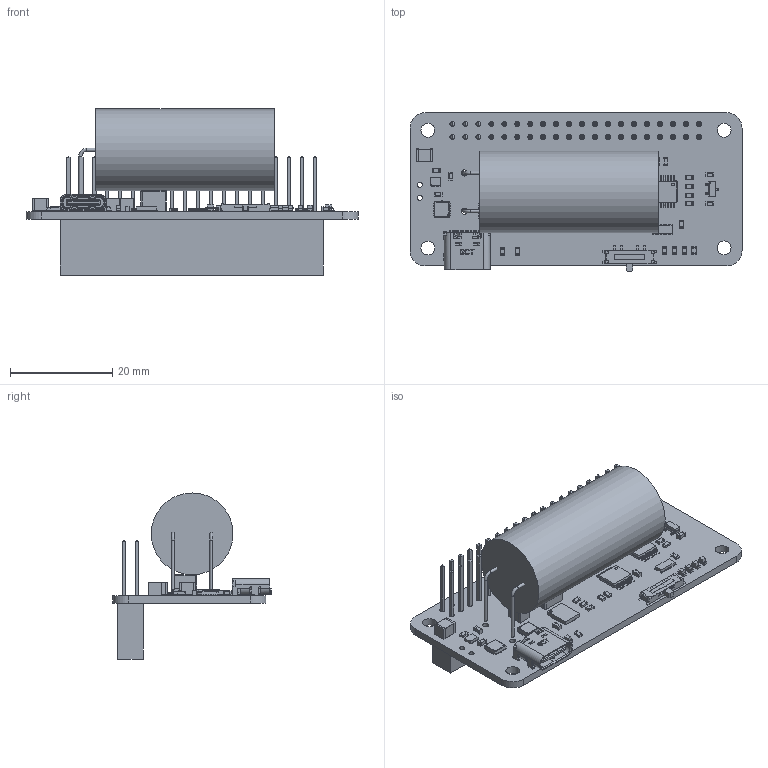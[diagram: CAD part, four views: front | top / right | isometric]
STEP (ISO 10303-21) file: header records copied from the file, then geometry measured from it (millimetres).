
FILE_DESCRIPTION(('FreeCAD Model'),'2;1');
FILE_NAME('Open CASCADE Shape Model','2026-04-29T20:05:33',(''),(''), 'Open CASCADE STEP processor 7.8','FreeCAD','Unknown');
FILE_SCHEMA(('AUTOMOTIVE_DESIGN { 1 0 10303 214 1 1 1 1 }'));
Length unit declared in the file: millimetre
Products named in the file (133): Unnamed; HSC_450F; Pin+; Pin-; Capacitor; Components; Passive_components; Passive_components002; Passive_components020; Passive_components021; Passive_components019; Body001; Pins016; Pins; Pins001; Pins002; Pins003; Pins004; Pins005; Pins006; Pins007; Pins008; Pins009; Pins010; Pins011; Pins012; Pins013; Pins014; Pins015; Passive_components013; LED-R; Mod_switch; SW1; SW2; IC004; Mosfet1; M1pin1; M1pin2; M1pin3; M1pin4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
Assembly tree (168 placements, depth 5):
  Unnamed
    HSC_450F
      Pin+
      Pin-
      Capacitor
    Components
      Passive_components  x15
      Passive_components002  x8
      Passive_components020
      Passive_components021  x3
      Passive_components019
        Body001
        Pins016
          Pins
          Pins001
          Pins002
          Pins003
          Pins004
          Pins005
          Pins006
          Pins007
          Pins008
          Pins009
          Pins010
          Pins011
          Pins012
          Pins013
          Pins014
          Pins015
      Passive_components013
      LED-R  x5
      Mod_switch
        SW1
        SW2
      IC004  x2
      Mosfet1
        M1pin1
        M1pin2
        M1pin3
        M1pin4
        M1pin5
        M1pin6
        M1pin17
      IC3
        Body
        ThermalPin
        PinsArrayLR008
          PinsArrayLR
          PinsArrayLR001
          PinsArrayLR002
          PinsArrayLR003
          PinsArrayLR004
          PinsArrayLR005
          PinsArrayLR006
          PinsArrayLR007
      IC2  x2
      IC1
        Body002
        ThermalPin001
        PinsArrayLR023
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Bounding box: 65 x 31.05 x 32.53 mm (x, y, z)
Volume: 13210.4 mm3; surface area: 12258.6 mm2
Topology: 153 solids, 153 shells, 4159 faces, 10556 edges, 6759 vertices
Faces by surface type: plane 3248, cylinder 784, bspline 73, cone 48, sphere 4, torus 2
Full cylindrical faces by diameter (mm): 0.202 x1, 0.4 x6, 0.5 x1, 0.6 x6, 0.9 x2, 1 x42, 1.2 x2, 2.7 x4, 16 x1
Entity records: 91224 total; most frequent: CARTESIAN_POINT 17609, ORIENTED_EDGE 14584, DIRECTION 13699, EDGE_CURVE 7292, LINE 6061, VECTOR 6061, VERTEX_POINT 4655, AXIS2_PLACEMENT_3D 3819
